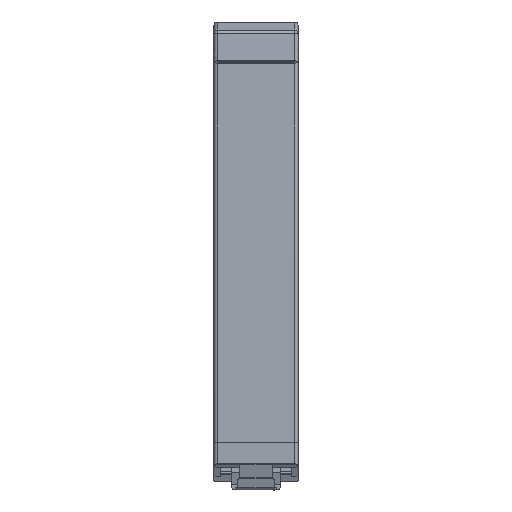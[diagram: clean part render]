
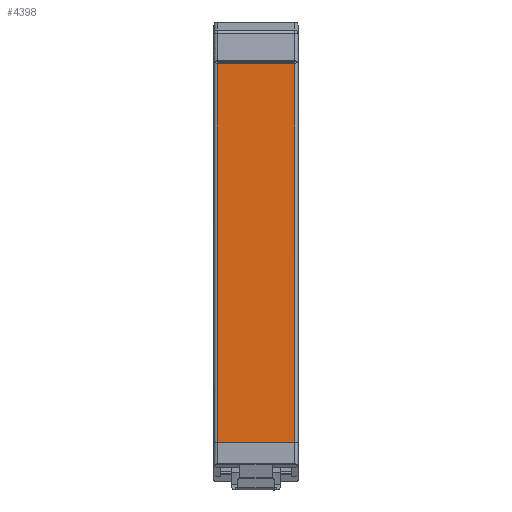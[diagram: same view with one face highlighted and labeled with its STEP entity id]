
A CAD part, front view. The second image highlights one B-rep face of the part: STEP entity #4398.
In plain terms, the highlighted planar face has unit normal (0, -1, 0).
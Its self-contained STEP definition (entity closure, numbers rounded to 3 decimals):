
#200 = VECTOR ( 'NONE', #9122, 1000. ) ;
#368 = EDGE_CURVE ( 'NONE', #9243, #4709, #10188, .T. ) ;
#612 = VERTEX_POINT ( 'NONE', #9773 ) ;
#643 = CARTESIAN_POINT ( 'NONE',  ( -11.5, -100., 14.041 ) ) ;
#675 = DIRECTION ( 'NONE',  ( 0., 0., -1. ) ) ;
#715 = LINE ( 'NONE', #11658, #5851 ) ;
#1321 = EDGE_CURVE ( 'NONE', #7654, #9243, #5040, .T. ) ;
#1422 = ORIENTED_EDGE ( 'NONE', *, *, #1745, .T. ) ;
#1638 = CARTESIAN_POINT ( 'NONE',  ( 11.5, -100., 120.033 ) ) ;
#1745 = EDGE_CURVE ( 'NONE', #4709, #612, #715, .T. ) ;
#1841 = DIRECTION ( 'NONE',  ( 1., 0., 0. ) ) ;
#2502 = CARTESIAN_POINT ( 'NONE',  ( -12.5, -100., 0.8 ) ) ;
#3091 = CARTESIAN_POINT ( 'NONE',  ( -12.5, -100., 126.8 ) ) ;
#3169 = CARTESIAN_POINT ( 'NONE',  ( 11.5, -100., 126.8 ) ) ;
#3440 = DIRECTION ( 'NONE',  ( 0., -1., 0. ) ) ;
#4398 = ADVANCED_FACE ( 'NONE', ( #7765 ), #9732, .T. ) ;
#4709 = VERTEX_POINT ( 'NONE', #643 ) ;
#5040 = LINE ( 'NONE', #3091, #6050 ) ;
#5141 = AXIS2_PLACEMENT_3D ( 'NONE', #2502, #3440, #675 ) ;
#5241 = DIRECTION ( 'NONE',  ( 0., 0., -1. ) ) ;
#5773 = ORIENTED_EDGE ( 'NONE', *, *, #11563, .F. ) ;
#5851 = VECTOR ( 'NONE', #1841, 1000. ) ;
#6050 = VECTOR ( 'NONE', #6694, 1000. ) ;
#6694 = DIRECTION ( 'NONE',  ( -1., 0., 0. ) ) ;
#6825 = ORIENTED_EDGE ( 'NONE', *, *, #368, .T. ) ;
#7304 = ORIENTED_EDGE ( 'NONE', *, *, #1321, .T. ) ;
#7654 = VERTEX_POINT ( 'NONE', #3169 ) ;
#7765 = FACE_OUTER_BOUND ( 'NONE', #10647, .T. ) ;
#8961 = CARTESIAN_POINT ( 'NONE',  ( -11.5, -100., 126.8 ) ) ;
#9122 = DIRECTION ( 'NONE',  ( 0., 0., -1. ) ) ;
#9243 = VERTEX_POINT ( 'NONE', #8961 ) ;
#9732 = PLANE ( 'NONE',  #5141 ) ;
#9753 = LINE ( 'NONE', #1638, #9973 ) ;
#9773 = CARTESIAN_POINT ( 'NONE',  ( 11.5, -100., 14.041 ) ) ;
#9973 = VECTOR ( 'NONE', #5241, 1000. ) ;
#10133 = CARTESIAN_POINT ( 'NONE',  ( -11.5, -100., 0.8 ) ) ;
#10188 = LINE ( 'NONE', #10133, #200 ) ;
#10647 = EDGE_LOOP ( 'NONE', ( #6825, #1422, #5773, #7304 ) ) ;
#11563 = EDGE_CURVE ( 'NONE', #7654, #612, #9753, .T. ) ;
#11658 = CARTESIAN_POINT ( 'NONE',  ( -12.5, -100., 14.041 ) ) ;
